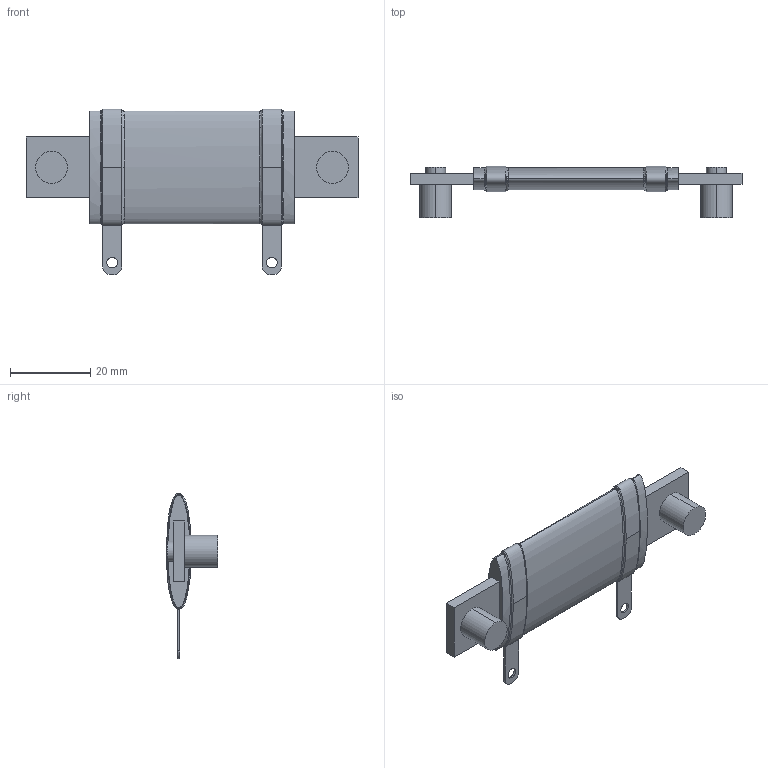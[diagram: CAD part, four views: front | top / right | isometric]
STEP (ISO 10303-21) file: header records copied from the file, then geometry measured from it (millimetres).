
FILE_DESCRIPTION (( 'STEP AP203' ), '1' );
FILE_NAME ('FSOT40-09E.STEP', '2019-11-04T15:53:34', ( '' ), ( '' ), 'SwSTEP 2.0', 'SolidWorks 2019', '' );
FILE_SCHEMA (( 'CONFIG_CONTROL_DESIGN' ));
Length unit declared in the file: millimetre
Products named in the file (1): FSOT40-09E
Bounding box: 82.56 x 12.91 x 41.12 mm (x, y, z)
Volume: 8665.1 mm3; surface area: 5124.5 mm2
Topology: 1 solids, 1 shells, 122 faces, 322 edges, 208 vertices
Faces by surface type: bspline 80, plane 26, cylinder 16
Entity records: 6447 total; most frequent: CARTESIAN_POINT 3891, ORIENTED_EDGE 644, DIRECTION 338, EDGE_CURVE 322, VERTEX_POINT 208, B_SPLINE_CURVE_WITH_KNOTS 158, AXIS2_PLACEMENT_3D 135, EDGE_LOOP 132
